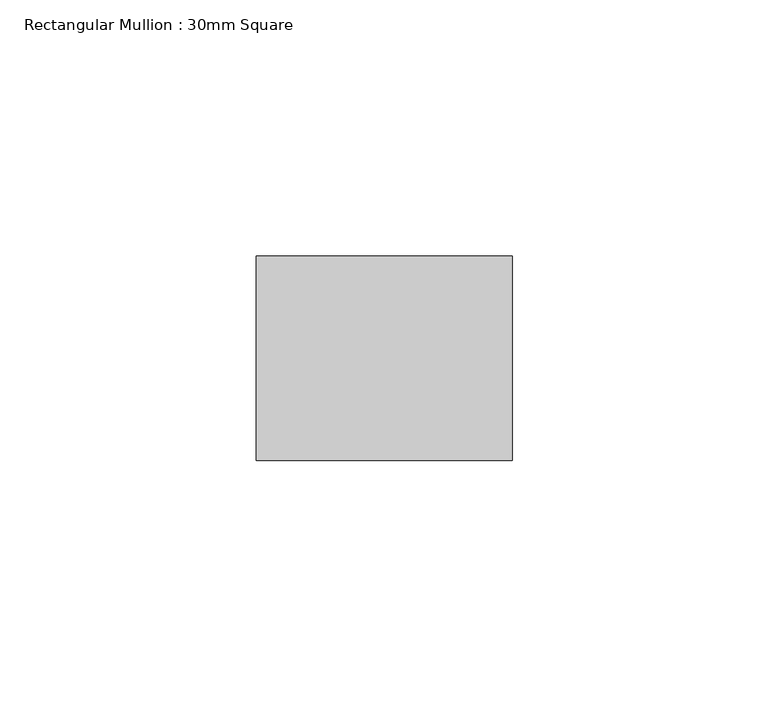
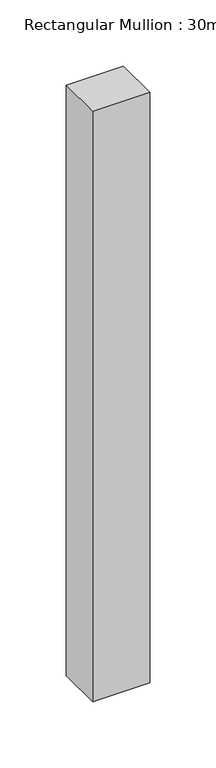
"""IFC4 building model written with IfcOpenShell, lengths in millimetres: member geometry, Rectangular Mullion : 30mm Square."""

from ifc_helpers import new_model, si_unit, frame, origin, place, context, project, spatial, polyline, outline, extrude, source, transform, mapped, element, save


def rectangular_mullion_30mm_square_f9243ba7(model_context):
    return source(origin(), model_context, "Body", "SweptSolid", [
        extrude(outline(polyline([(25.0, 20.0), (25.0, -20.0), (-25.0, -20.0), (-25.0, 20.0), (25.0, 20.0)])), frame((0.0, 0.0, -545.0), z_axis=(0.0, 0.0, 1.0), x_axis=(1.0, 0.0, 0.0)), (0.0, 0.0, 1.0), 545.0),
    ])


if __name__ == "__main__":
    model = new_model("IFC4")
    model_context = context("Model", 3, world=origin())
    ifc_project = project(units=[si_unit("LENGTHUNIT", "METRE", prefix="MILLI")], contexts=[model_context])
    site = spatial("IfcSite", under=ifc_project)
    building = spatial("IfcBuilding", under=site)
    placement = place(None, origin())
    rectangular_mullion_30mm_square_shape = rectangular_mullion_30mm_square_f9243ba7(model_context)
    element("IfcMember", 1, ObjectType="Rectangular Mullion : 30mm Square", at=placement, inside=building, context=model_context, shape_type="MappedRepresentation", body=[
        mapped(rectangular_mullion_30mm_square_shape, transform((0.0, 0.0, 0.0), x_axis=(1.0, 0.0, 0.0), y_axis=(0.0, 1.0, 0.0), z_axis=(0.0, 0.0, 1.0))),
    ])
    save(model, "model.ifc")
